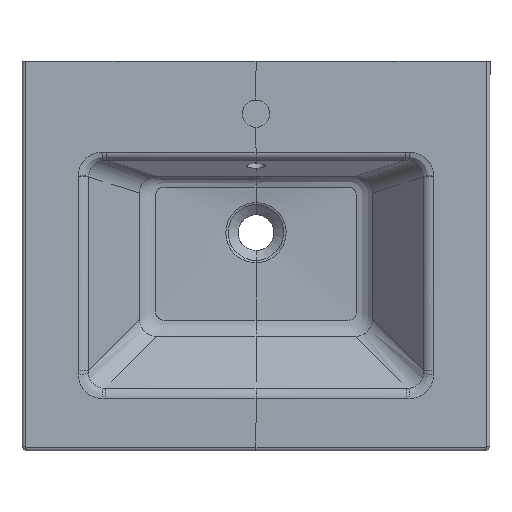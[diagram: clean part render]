
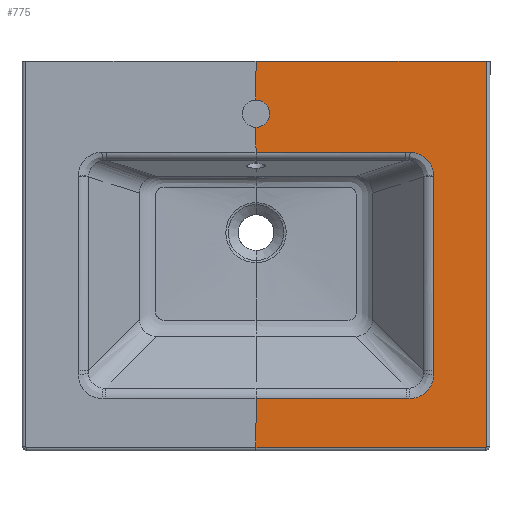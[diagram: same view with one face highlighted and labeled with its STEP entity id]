
A CAD part, top view. The second image highlights one B-rep face of the part: STEP entity #775.
In plain terms, the highlighted planar face has unit normal (0, 0, 1).
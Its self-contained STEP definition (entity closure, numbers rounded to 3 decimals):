
#289=CIRCLE('',#3948,17.5);
#393=PLANE('',#4104);
#412=LINE('',#13724,#495);
#413=LINE('',#13747,#496);
#414=LINE('',#13754,#497);
#418=LINE('',#13799,#501);
#419=LINE('',#13807,#502);
#445=LINE('',#16598,#528);
#446=LINE('',#16600,#529);
#447=LINE('',#16602,#530);
#448=LINE('',#16604,#531);
#453=LINE('',#18017,#536);
#454=LINE('',#18153,#537);
#455=LINE('',#18175,#538);
#456=LINE('',#18295,#539);
#457=LINE('',#20032,#540);
#458=LINE('',#20034,#541);
#495=VECTOR('',#4238,1.);
#496=VECTOR('',#4245,1.);
#497=VECTOR('',#4248,1.);
#501=VECTOR('',#4260,1.);
#502=VECTOR('',#4269,1.);
#528=VECTOR('',#4431,1.);
#529=VECTOR('',#4432,1.);
#530=VECTOR('',#4433,1.);
#531=VECTOR('',#4434,1.);
#536=VECTOR('',#4449,1.);
#537=VECTOR('',#4450,1.);
#538=VECTOR('',#4451,1.);
#539=VECTOR('',#4452,1.);
#540=VECTOR('',#4499,1.);
#541=VECTOR('',#4500,1.);
#775=ADVANCED_FACE('',(#1050),#393,.F.);
#1050=FACE_OUTER_BOUND('',#1289,.T.);
#1289=EDGE_LOOP('',(#2509,#2510,#2511,#2512,#2513,#2514,#2515,#2516,#2517,
#2518,#2519,#2520,#2521,#2522,#2523,#2524,#2525,#2526,#2527,#2528,#2529));
#2509=ORIENTED_EDGE('',*,*,#3538,.F.);
#2510=ORIENTED_EDGE('',*,*,#2978,.T.);
#2511=ORIENTED_EDGE('',*,*,#3537,.F.);
#2512=ORIENTED_EDGE('',*,*,#3258,.T.);
#2513=ORIENTED_EDGE('',*,*,#3483,.T.);
#2514=ORIENTED_EDGE('',*,*,#3485,.T.);
#2515=ORIENTED_EDGE('',*,*,#3488,.T.);
#2516=ORIENTED_EDGE('',*,*,#3256,.T.);
#2517=ORIENTED_EDGE('',*,*,#3491,.T.);
#2518=ORIENTED_EDGE('',*,*,#3493,.T.);
#2519=ORIENTED_EDGE('',*,*,#3496,.T.);
#2520=ORIENTED_EDGE('',*,*,#3249,.T.);
#2521=ORIENTED_EDGE('',*,*,#3540,.F.);
#2522=ORIENTED_EDGE('',*,*,#3539,.F.);
#2523=ORIENTED_EDGE('',*,*,#3276,.T.);
#2524=ORIENTED_EDGE('',*,*,#3476,.T.);
#2525=ORIENTED_EDGE('',*,*,#3272,.T.);
#2526=ORIENTED_EDGE('',*,*,#3438,.T.);
#2527=ORIENTED_EDGE('',*,*,#3437,.T.);
#2528=ORIENTED_EDGE('',*,*,#3436,.T.);
#2529=ORIENTED_EDGE('',*,*,#3435,.T.);
#2579=VERTEX_POINT('',#5193);
#2580=VERTEX_POINT('',#5194);
#2778=VERTEX_POINT('',#13725);
#2779=VERTEX_POINT('',#13726);
#2783=VERTEX_POINT('',#13738);
#2785=VERTEX_POINT('',#13746);
#2786=VERTEX_POINT('',#13753);
#2787=VERTEX_POINT('',#13755);
#2800=VERTEX_POINT('',#13800);
#2801=VERTEX_POINT('',#13801);
#2802=VERTEX_POINT('',#13806);
#2803=VERTEX_POINT('',#13808);
#2825=VERTEX_POINT('',#13995);
#2871=VERTEX_POINT('',#16599);
#2872=VERTEX_POINT('',#16601);
#2873=VERTEX_POINT('',#16603);
#2902=VERTEX_POINT('',#18016);
#2904=VERTEX_POINT('',#18034);
#2906=VERTEX_POINT('',#18174);
#2908=VERTEX_POINT('',#18192);
#2920=VERTEX_POINT('',#20033);
#2978=EDGE_CURVE('',#2580,#2579,#289,.T.);
#3249=EDGE_CURVE('',#2778,#2779,#412,.T.);
#3256=EDGE_CURVE('',#2783,#2785,#413,.T.);
#3258=EDGE_CURVE('',#2787,#2786,#414,.T.);
#3272=EDGE_CURVE('',#2800,#2801,#418,.T.);
#3276=EDGE_CURVE('',#2803,#2802,#419,.T.);
#3435=EDGE_CURVE('',#2871,#2825,#445,.T.);
#3436=EDGE_CURVE('',#2872,#2871,#446,.T.);
#3437=EDGE_CURVE('',#2873,#2872,#447,.T.);
#3438=EDGE_CURVE('',#2801,#2873,#448,.T.);
#3476=EDGE_CURVE('',#2802,#2800,#3907,.T.);
#3483=EDGE_CURVE('',#2786,#2902,#453,.T.);
#3485=EDGE_CURVE('',#2902,#2904,#3911,.T.);
#3488=EDGE_CURVE('',#2904,#2783,#454,.T.);
#3491=EDGE_CURVE('',#2785,#2906,#455,.T.);
#3493=EDGE_CURVE('',#2906,#2908,#3913,.T.);
#3496=EDGE_CURVE('',#2908,#2778,#456,.T.);
#3537=EDGE_CURVE('',#2787,#2579,#3940,.T.);
#3538=EDGE_CURVE('',#2580,#2825,#3941,.T.);
#3539=EDGE_CURVE('',#2803,#2920,#457,.T.);
#3540=EDGE_CURVE('',#2920,#2779,#458,.T.);
#3907=B_SPLINE_CURVE_WITH_KNOTS('',3,(#17826,#17827,#17828,#17829,#17830,
#17831,#17832,#17833,#17834,#17835,#17836,#17837),.UNSPECIFIED.,.F.,.F.,
(4,2,2,2,2,4),(0.,0.131,0.364,0.605,0.881,
1.),.UNSPECIFIED.);
#3911=B_SPLINE_CURVE_WITH_KNOTS('',3,(#18035,#18036,#18037,#18038,#18039,
#18040,#18041,#18042,#18043,#18044),.UNSPECIFIED.,.F.,.F.,(4,2,2,2,4),(0.,
0.25,0.5,0.75,1.),.UNSPECIFIED.);
#3913=B_SPLINE_CURVE_WITH_KNOTS('',3,(#18193,#18194,#18195,#18196,#18197,
#18198,#18199,#18200,#18201,#18202),.UNSPECIFIED.,.F.,.F.,(4,2,2,2,4),(0.,
0.25,0.5,0.75,1.),.UNSPECIFIED.);
#3940=B_SPLINE_CURVE_WITH_KNOTS('',1,(#20028,#20029),.UNSPECIFIED.,.F.,
 .F.,(2,2),(0.,1.),.UNSPECIFIED.);
#3941=B_SPLINE_CURVE_WITH_KNOTS('',1,(#20030,#20031),.UNSPECIFIED.,.F.,
 .F.,(2,2),(0.,1.),.UNSPECIFIED.);
#3948=AXIS2_PLACEMENT_3D('',#5195,#4128,#4129);
#4104=AXIS2_PLACEMENT_3D('',#20036,#4503,#4504);
#4128=DIRECTION('',(0.,0.,-1.));
#4129=DIRECTION('',(-1.,0.,0.));
#4238=DIRECTION('',(-1.,0.,0.));
#4245=DIRECTION('',(0.,-1.,0.));
#4248=DIRECTION('',(1.,0.,0.));
#4260=DIRECTION('',(0.,1.,0.));
#4269=DIRECTION('',(1.,0.,0.));
#4431=DIRECTION('',(-1.,0.,0.));
#4432=DIRECTION('',(-1.,0.,0.));
#4433=DIRECTION('',(-1.,0.,0.));
#4434=DIRECTION('',(-1.,0.,0.));
#4449=DIRECTION('',(1.,0.,0.));
#4450=DIRECTION('',(0.,-1.,0.));
#4451=DIRECTION('',(0.,-1.,0.));
#4452=DIRECTION('',(-1.,0.,0.));
#4499=DIRECTION('',(0.,1.,0.));
#4500=DIRECTION('',(0.,1.,0.));
#4503=DIRECTION('',(0.,0.,-1.));
#4504=DIRECTION('',(0.,-1.,0.));
#5193=CARTESIAN_POINT('',(0.,-84.996,0.));
#5194=CARTESIAN_POINT('',(0.,-49.996,0.));
#5195=CARTESIAN_POINT('',(0.,-67.496,0.));
#13724=CARTESIAN_POINT('',(96.443,-433.,0.));
#13725=CARTESIAN_POINT('',(192.887,-433.,0.));
#13726=CARTESIAN_POINT('',(0.,-433.,0.));
#13738=CARTESIAN_POINT('',(228.,-148.643,0.));
#13746=CARTESIAN_POINT('',(228.,-397.75,0.));
#13747=CARTESIAN_POINT('',(228.,-273.196,0.));
#13753=CARTESIAN_POINT('',(191.493,-117.,0.));
#13754=CARTESIAN_POINT('',(95.747,-117.,0.));
#13755=CARTESIAN_POINT('',(0.,-117.,0.));
#13799=CARTESIAN_POINT('',(296.458,-247.263,0.));
#13800=CARTESIAN_POINT('',(296.458,-494.525,0.));
#13801=CARTESIAN_POINT('',(296.458,0.,0.));
#13806=CARTESIAN_POINT('',(294.525,-496.458,0.));
#13807=CARTESIAN_POINT('',(147.263,-496.458,0.));
#13808=CARTESIAN_POINT('',(0.,-496.458,0.));
#13995=CARTESIAN_POINT('',(0.,0.,0.));
#16598=CARTESIAN_POINT('',(67.5,0.,0.));
#16599=CARTESIAN_POINT('',(135.,0.,0.));
#16600=CARTESIAN_POINT('',(140.,0.,0.));
#16601=CARTESIAN_POINT('',(145.,0.,0.));
#16602=CARTESIAN_POINT('',(220.299,0.,0.));
#16603=CARTESIAN_POINT('',(295.599,0.,0.));
#16604=CARTESIAN_POINT('',(140.,0.,0.));
#17826=CARTESIAN_POINT('',(294.525,-496.458,0.));
#17827=CARTESIAN_POINT('',(294.655,-496.458,0.));
#17828=CARTESIAN_POINT('',(294.784,-496.429,0.));
#17829=CARTESIAN_POINT('',(295.127,-496.326,0.));
#17830=CARTESIAN_POINT('',(295.335,-496.218,0.));
#17831=CARTESIAN_POINT('',(295.713,-495.949,0.));
#17832=CARTESIAN_POINT('',(295.887,-495.781,0.));
#17833=CARTESIAN_POINT('',(296.196,-495.38,0.));
#17834=CARTESIAN_POINT('',(296.329,-495.133,0.));
#17835=CARTESIAN_POINT('',(296.434,-494.76,0.));
#17836=CARTESIAN_POINT('',(296.458,-494.643,0.));
#17837=CARTESIAN_POINT('',(296.458,-494.525,0.));
#18016=CARTESIAN_POINT('',(198.,-117.,0.));
#18017=CARTESIAN_POINT('',(194.747,-117.,0.));
#18034=CARTESIAN_POINT('',(228.,-147.,0.));
#18035=CARTESIAN_POINT('',(198.,-117.,0.));
#18036=CARTESIAN_POINT('',(201.978,-117.,0.));
#18037=CARTESIAN_POINT('',(205.805,-117.761,0.));
#18038=CARTESIAN_POINT('',(213.156,-120.806,0.));
#18039=CARTESIAN_POINT('',(216.4,-122.974,0.));
#18040=CARTESIAN_POINT('',(222.027,-128.6,0.));
#18041=CARTESIAN_POINT('',(224.194,-131.844,0.));
#18042=CARTESIAN_POINT('',(227.239,-139.195,0.));
#18043=CARTESIAN_POINT('',(228.,-143.021,0.));
#18044=CARTESIAN_POINT('',(228.,-147.,0.));
#18153=CARTESIAN_POINT('',(228.,-147.821,0.));
#18174=CARTESIAN_POINT('',(228.,-403.,0.));
#18175=CARTESIAN_POINT('',(228.,-400.375,0.));
#18192=CARTESIAN_POINT('',(198.,-433.,0.));
#18193=CARTESIAN_POINT('',(228.,-403.,0.));
#18194=CARTESIAN_POINT('',(228.,-406.978,0.));
#18195=CARTESIAN_POINT('',(227.239,-410.805,0.));
#18196=CARTESIAN_POINT('',(224.194,-418.156,0.));
#18197=CARTESIAN_POINT('',(222.026,-421.4,0.));
#18198=CARTESIAN_POINT('',(216.4,-427.027,0.));
#18199=CARTESIAN_POINT('',(213.156,-429.194,0.));
#18200=CARTESIAN_POINT('',(205.805,-432.239,0.));
#18201=CARTESIAN_POINT('',(201.979,-433.,0.));
#18202=CARTESIAN_POINT('',(198.,-433.,0.));
#18295=CARTESIAN_POINT('',(195.443,-433.,0.));
#20028=CARTESIAN_POINT('',(0.,-117.,0.));
#20029=CARTESIAN_POINT('',(0.,-84.996,0.));
#20030=CARTESIAN_POINT('',(0.,-49.996,0.));
#20031=CARTESIAN_POINT('',(0.,0.,0.));
#20032=CARTESIAN_POINT('',(0.,-265.537,0.));
#20033=CARTESIAN_POINT('',(0.,-495.599,0.));
#20034=CARTESIAN_POINT('',(0.,-464.299,0.));
#20036=CARTESIAN_POINT('',(336.041,37.054,0.));
